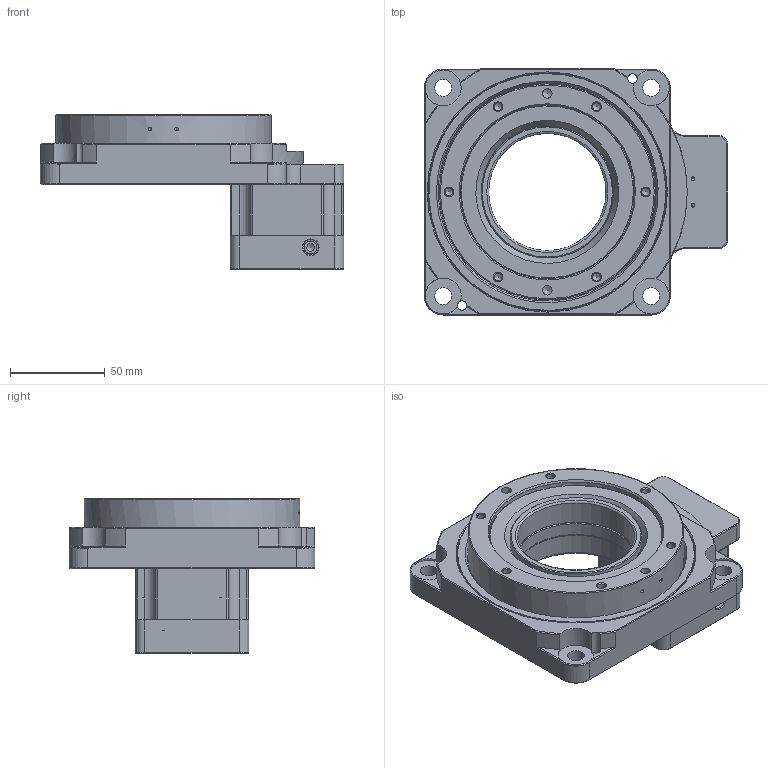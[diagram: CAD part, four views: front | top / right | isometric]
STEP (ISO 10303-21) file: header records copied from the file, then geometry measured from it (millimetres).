
FILE_DESCRIPTION((''),'2;1');
FILE_NAME('D:\유성\액추에이터\작성도면\액추에이터 3d\130\SHA130SV010 (1STAGE-A TYPE).stp','2014-05-22T14:14:38',('nagyu'),(''),'Autodesk Inventor 2013','Autodesk Inventor 2013','');
FILE_SCHEMA(('AUTOMOTIVE_DESIGN { 1 0 10303 214 1 1 1 1 }'));
Length unit declared in the file: millimetre
Products named in the file (1): SHA130SV010 (서보모터취부)_Shrinkwrap_1
Bounding box: 160.34 x 130 x 81.6 mm (x, y, z)
Volume: 438934.7 mm3; surface area: 151802.6 mm2
Topology: 2 solids, 25 shells, 1661 faces, 4431 edges, 2891 vertices
Faces by surface type: bspline 930, plane 309, cylinder 207, cone 174, torus 41
Full cylindrical faces by diameter (mm): 1.5 x2, 2.013 x4, 2.459 x12, 3 x5, 3.242 x9, 3.4 x12, 4 x4, 4.134 x10, 4.3 x4, 4.5 x4, 5 x5, 5.5 x5, 6 x12, 6.8 x1, 7 x4, 7.5 x8, 7.9 x1, 8 x3, 8.16 x1, 8.5 x1, 9 x4, 14 x1, 14.2 x1, 15 x1, 17 x1, 19 x2, 23.9 x1, 24.7 x1, 24.9 x1, 25 x2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
Entity records: 65438 total; most frequent: CARTESIAN_POINT 29698, ORIENTED_EDGE 7990, DIRECTION 5069, EDGE_CURVE 3995, VERTEX_POINT 2777, AXIS2_PLACEMENT_3D 2336, EDGE_LOOP 2103, B_SPLINE_CURVE_WITH_KNOTS 1920
